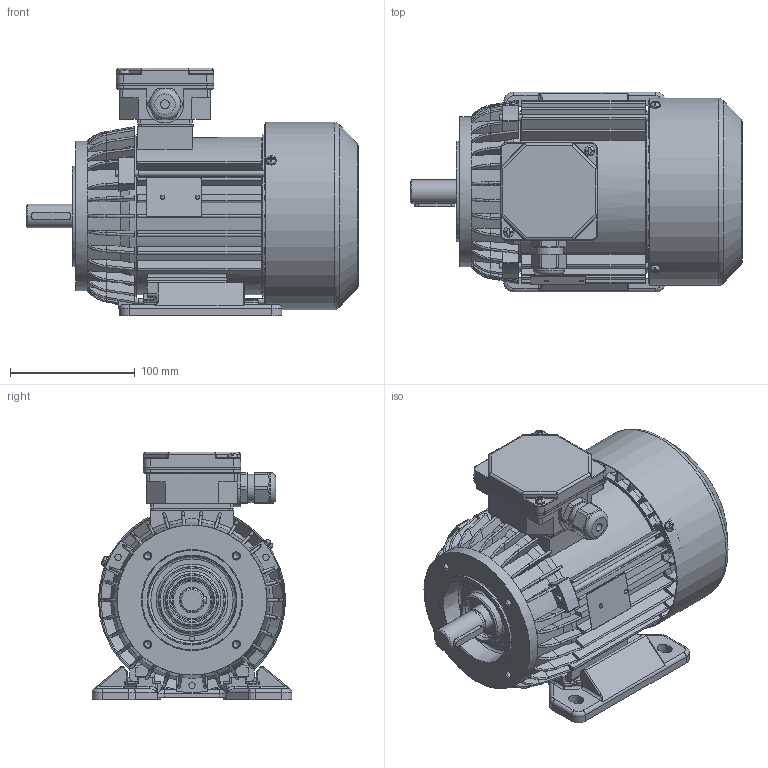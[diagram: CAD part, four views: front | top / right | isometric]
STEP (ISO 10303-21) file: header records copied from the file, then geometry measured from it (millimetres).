
FILE_DESCRIPTION(/* description */ ('Unknown'),/* implementation_level */ '2;1');
FILE_NAME(/* name */ 'SLh80-2A2',/* time_stamp */ '2019-02-13T11:42:46+01:00',/* author */ ('Klaudiusz Szlosek'),/* organization */ ('BESEL S.A.'),/* preprocessor_version */ 'ST-DEVELOPER v16.7',/* originating_system */ 'DEX',/* authorisation */ $);
FILE_SCHEMA (('AUTOMOTIVE_DESIGN {1 0 10303 214 3 1 1}'));
Products named in the file (1): SLh80-2A2
Bounding box: 265.77 x 160 x 198.5 mm (x, y, z)
Volume: 955494 mm3; surface area: 516217.5 mm2
Topology: 2 solids, 2 shells, 2746 faces, 7932 edges, 5109 vertices
Faces by surface type: plane 1314, cylinder 864, bspline 292, torus 149, cone 109, sphere 18
Full cylindrical faces by diameter (mm): 2 x2, 2.4 x2, 3 x1, 3.7 x8, 4 x4, 4.5 x1, 4.6 x3, 4.8 x2, 5 x12, 5.5 x3, 6.5 x4, 7 x1, 8 x9, 18.596 x1, 18.996 x1, 19.296 x1, 19.496 x2, 19.896 x1, 20.296 x2, 20.396 x2, 20.4 x2, 22.3 x1, 25 x1, 25.495 x1, 25.645 x1, 25.995 x3, 26.045 x1, 28.796 x4, 30 x1, 34 x1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
Entity records: 115095 total; most frequent: CARTESIAN_POINT 27178, ORIENTED_EDGE 14970, DIRECTION 13490, EDGE_CURVE 7485, VERTEX_POINT 4947, AXIS2_PLACEMENT_3D 4862, LINE 3766, VECTOR 3766
